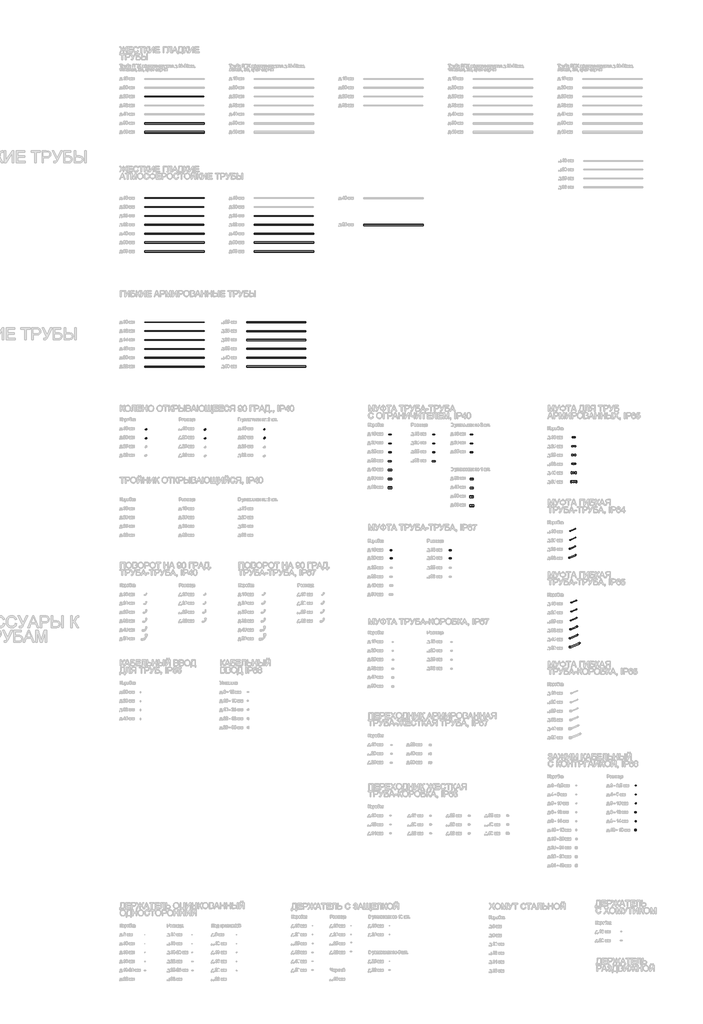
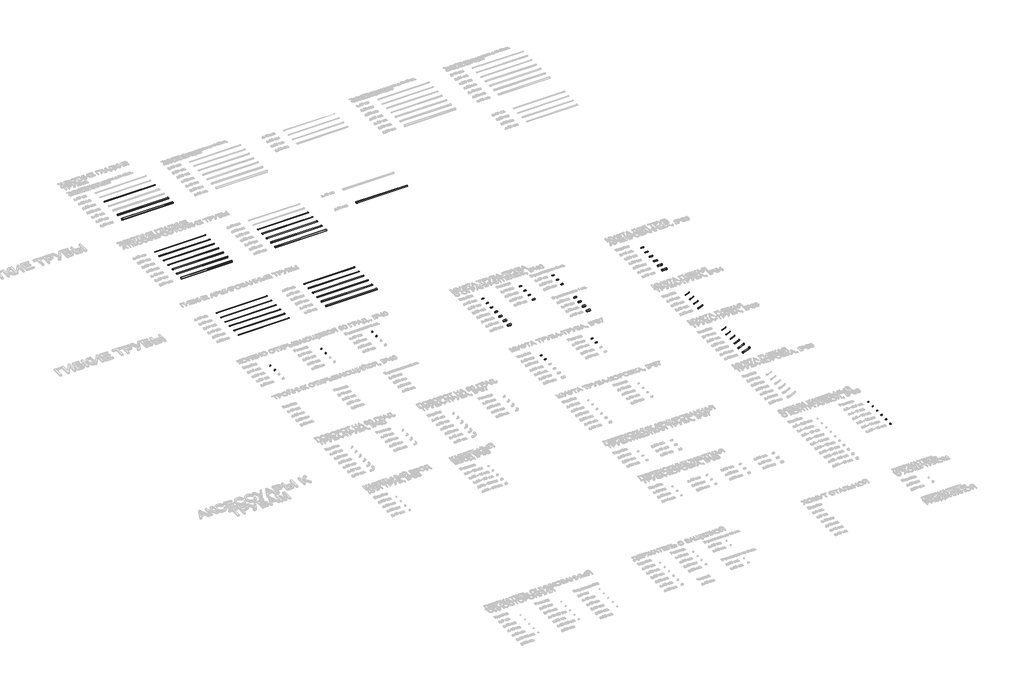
# One storey, part 3 of 98: 50 cable carrier fittings, 28 cable carrier segments.
"""IFC4 building model written with IfcOpenShell, lengths in millimetres."""

from ifc_helpers import new_model, si_unit, point, frame, frame_2d, origin, place, context, project, spatial, circle_curve, trimmed, segment, composite_curve, outline, extrude, transform, mapped, element, save
from components import cable_carrier_fitting_e6c2af0f, cable_carrier_fitting_a0d49712, cable_carrier_fitting_d59ab6b8, cable_carrier_fitting_bf89c065, cable_carrier_fitting_e20c0bde, cable_carrier_fitting_6d4e077f, cable_carrier_fitting_63069963, cable_carrier_fitting_d0d8130a, cable_carrier_fitting_3006681f, cable_carrier_fitting_b1187ae6, cable_carrier_fitting_06bcf47e, cable_carrier_fitting_319fce00, cable_carrier_fitting_6fbfd521, cable_carrier_fitting_863328d7, cable_carrier_fitting_cfdb1fa8, cable_carrier_fitting_4c3340ee, cable_carrier_fitting_b661eac2, cable_carrier_fitting_fd8eeae3, cable_carrier_fitting_d665045f, cable_carrier_fitting_6df9b579, cable_carrier_fitting_d353317e, cable_carrier_fitting_0d2f3ee6, cable_carrier_fitting_17c59ff6, cable_carrier_fitting_585735aa, cable_carrier_fitting_ab0d7205, cable_carrier_fitting_f0e7d8c3, cable_carrier_fitting_927482d8, cable_carrier_fitting_92adc8bc, cable_carrier_fitting_c5d78289, cable_carrier_fitting_eb64f451, cable_carrier_fitting_e854332b, cable_carrier_fitting_78a60928, cable_carrier_fitting_eb13e9ea

model = new_model("IFC4")

# Units and contexts
model_context = context("Model", 3, world=origin())
ifc_project = project(units=[si_unit("LENGTHUNIT", "METRE", prefix="MILLI")], contexts=[model_context])

# Site, building, storey
site = spatial("IfcSite", under=ifc_project)
building = spatial("IfcBuilding", under=site)
storey = spatial("IfcBuildingStorey", under=building, Name="Этаж 01", Elevation=0.0)

# Cable carrier fittings
placement = place(None, origin())
cable_carrier_fitting_shape = cable_carrier_fitting_e6c2af0f(model_context)
element("IfcCableCarrierFitting", 1, ObjectType="КНС_МуфтаДляАрмированныхТруб_IP65_DKC : Коробка", at=placement, inside=storey, context=model_context, shape_type="MappedRepresentation", body=[
    mapped(cable_carrier_fitting_shape, transform((15293.1093796, -16611.2810871, 0.0), x_axis=(1.0, 0.0, 0.0), y_axis=(0.0, 1.0, 0.0), z_axis=(0.0, 0.0, 1.0))),
])
cable_carrier_fitting_2_shape = cable_carrier_fitting_a0d49712(model_context)
element("IfcCableCarrierFitting", 2, ObjectType="КНС_МуфтаТрубаТрубаСОграничителем_IP40_DKC : Коробка", at=placement, inside=storey, context=model_context, shape_type="MappedRepresentation", body=[
    mapped(cable_carrier_fitting_2_shape, transform((9083.4719655, -16521.8105263, 0.0), x_axis=(1.0, 0.0, 0.0), y_axis=(0.0, 1.0, 0.0), z_axis=(0.0, 0.0, 1.0))),
])
element("IfcCableCarrierFitting", 3, ObjectType="КНС_МуфтаТрубаТрубаСОграничителем_IP40_DKC : Розница", at=placement, inside=storey, context=model_context, shape_type="MappedRepresentation", body=[
    mapped(cable_carrier_fitting_2_shape, transform((10563.4719655, -16521.8105263, 0.0), x_axis=(1.0, 0.0, 0.0), y_axis=(0.0, 1.0, 0.0), z_axis=(0.0, 0.0, 1.0))),
])
cable_carrier_fitting_3_shape = cable_carrier_fitting_d59ab6b8(model_context)
element("IfcCableCarrierFitting", 4, ObjectType="КНС_МуфтаТрубаТрубаСОграничителем_IP40_DKC : В упаковках по 1шт.", at=placement, inside=storey, context=model_context, shape_type="MappedRepresentation", body=[
    mapped(cable_carrier_fitting_3_shape, transform((11843.4719655, -17721.8105263, 0.0), x_axis=(1.0, 0.0, 0.0), y_axis=(0.0, 1.0, 0.0), z_axis=(0.0, 0.0, 1.0))),
])
cable_carrier_fitting_4_shape = cable_carrier_fitting_bf89c065(model_context)
element("IfcCableCarrierFitting", 5, ObjectType="КНС_МуфтаТрубаТрубаСОграничителем_IP40_DKC : Коробка", at=placement, inside=storey, context=model_context, shape_type="MappedRepresentation", body=[
    mapped(cable_carrier_fitting_4_shape, transform((9083.4719655, -15621.8105263, 0.0), x_axis=(1.0, 0.0, 0.0), y_axis=(0.0, 1.0, 0.0), z_axis=(0.0, 0.0, 1.0))),
])
cable_carrier_fitting_5_shape = cable_carrier_fitting_e20c0bde(model_context)
element("IfcCableCarrierFitting", 6, ObjectType="КНС_МуфтаТрубаТрубаСОграничителем_IP40_DKC : Коробка", at=placement, inside=storey, context=model_context, shape_type="MappedRepresentation", body=[
    mapped(cable_carrier_fitting_5_shape, transform((9083.4719655, -15921.8105263, 0.0), x_axis=(1.0, 0.0, 0.0), y_axis=(0.0, 1.0, 0.0), z_axis=(0.0, 0.0, 1.0))),
])
cable_carrier_fitting_6_shape = cable_carrier_fitting_6d4e077f(model_context)
element("IfcCableCarrierFitting", 7, ObjectType="КНС_МуфтаТрубаТрубаСОграничителем_IP40_DKC : Коробка", at=placement, inside=storey, context=model_context, shape_type="MappedRepresentation", body=[
    mapped(cable_carrier_fitting_6_shape, transform((9083.4719655, -16221.8105263, 0.0), x_axis=(1.0, 0.0, 0.0), y_axis=(0.0, 1.0, 0.0), z_axis=(0.0, 0.0, 1.0))),
])
cable_carrier_fitting_7_shape = cable_carrier_fitting_63069963(model_context)
element("IfcCableCarrierFitting", 8, ObjectType="КНС_МуфтаТрубаТрубаСОграничителем_IP40_DKC : Коробка", at=placement, inside=storey, context=model_context, shape_type="MappedRepresentation", body=[
    mapped(cable_carrier_fitting_7_shape, transform((9083.4719655, -16821.8105263, 0.0), x_axis=(1.0, 0.0, 0.0), y_axis=(0.0, 1.0, 0.0), z_axis=(0.0, 0.0, 1.0))),
])
element("IfcCableCarrierFitting", 9, ObjectType="КНС_МуфтаТрубаТрубаСОграничителем_IP40_DKC : Коробка", at=placement, inside=storey, context=model_context, shape_type="MappedRepresentation", body=[
    mapped(cable_carrier_fitting_3_shape, transform((9083.4719655, -17121.8105263, 0.0), x_axis=(1.0, 0.0, 0.0), y_axis=(0.0, 1.0, 0.0), z_axis=(0.0, 0.0, 1.0))),
])
cable_carrier_fitting_8_shape = cable_carrier_fitting_d0d8130a(model_context)
element("IfcCableCarrierFitting", 10, ObjectType="КНС_МуфтаТрубаТрубаСОграничителем_IP40_DKC : Коробка", at=placement, inside=storey, context=model_context, shape_type="MappedRepresentation", body=[
    mapped(cable_carrier_fitting_8_shape, transform((9083.4719655, -17421.8105263, 0.0), x_axis=(1.0, 0.0, 0.0), y_axis=(0.0, 1.0, 0.0), z_axis=(0.0, 0.0, 1.0))),
])
element("IfcCableCarrierFitting", 11, ObjectType="КНС_МуфтаТрубаТрубаСОграничителем_IP40_DKC : Розница", at=placement, inside=storey, context=model_context, shape_type="MappedRepresentation", body=[
    mapped(cable_carrier_fitting_4_shape, transform((10563.4719655, -15621.8105263, 0.0), x_axis=(1.0, 0.0, 0.0), y_axis=(0.0, 1.0, 0.0), z_axis=(0.0, 0.0, 1.0))),
])
element("IfcCableCarrierFitting", 12, ObjectType="КНС_МуфтаТрубаТрубаСОграничителем_IP40_DKC : Розница", at=placement, inside=storey, context=model_context, shape_type="MappedRepresentation", body=[
    mapped(cable_carrier_fitting_5_shape, transform((10563.4719655, -15921.8105263, 0.0), x_axis=(1.0, 0.0, 0.0), y_axis=(0.0, 1.0, 0.0), z_axis=(0.0, 0.0, 1.0))),
])
element("IfcCableCarrierFitting", 13, ObjectType="КНС_МуфтаТрубаТрубаСОграничителем_IP40_DKC : Розница", at=placement, inside=storey, context=model_context, shape_type="MappedRepresentation", body=[
    mapped(cable_carrier_fitting_6_shape, transform((10563.4719655, -16221.8105263, 0.0), x_axis=(1.0, 0.0, 0.0), y_axis=(0.0, 1.0, 0.0), z_axis=(0.0, 0.0, 1.0))),
])
element("IfcCableCarrierFitting", 14, ObjectType="КНС_МуфтаТрубаТрубаСОграничителем_IP40_DKC : В упаковках по 2шт.", at=placement, inside=storey, context=model_context, shape_type="MappedRepresentation", body=[
    mapped(cable_carrier_fitting_4_shape, transform((11843.4719655, -15621.8105263, 0.0), x_axis=(1.0, 0.0, 0.0), y_axis=(0.0, 1.0, 0.0), z_axis=(0.0, 0.0, 1.0))),
])
element("IfcCableCarrierFitting", 15, ObjectType="КНС_МуфтаТрубаТрубаСОграничителем_IP40_DKC : В упаковках по 2шт.", at=placement, inside=storey, context=model_context, shape_type="MappedRepresentation", body=[
    mapped(cable_carrier_fitting_5_shape, transform((11843.4719655, -15921.8105263, 0.0), x_axis=(1.0, 0.0, 0.0), y_axis=(0.0, 1.0, 0.0), z_axis=(0.0, 0.0, 1.0))),
])
element("IfcCableCarrierFitting", 16, ObjectType="КНС_МуфтаТрубаТрубаСОграничителем_IP40_DKC : В упаковках по 2шт.", at=placement, inside=storey, context=model_context, shape_type="MappedRepresentation", body=[
    mapped(cable_carrier_fitting_6_shape, transform((11843.4719655, -16221.8105263, 0.0), x_axis=(1.0, 0.0, 0.0), y_axis=(0.0, 1.0, 0.0), z_axis=(0.0, 0.0, 1.0))),
])
element("IfcCableCarrierFitting", 17, ObjectType="КНС_МуфтаТрубаТрубаСОграничителем_IP40_DKC : В упаковках по 1шт.", at=placement, inside=storey, context=model_context, shape_type="MappedRepresentation", body=[
    mapped(cable_carrier_fitting_2_shape, transform((11843.4719655, -17121.8105263, 0.0), x_axis=(1.0, 0.0, 0.0), y_axis=(0.0, 1.0, 0.0), z_axis=(0.0, 0.0, 1.0))),
])
element("IfcCableCarrierFitting", 18, ObjectType="КНС_МуфтаТрубаТрубаСОграничителем_IP40_DKC : В упаковках по 1шт.", at=placement, inside=storey, context=model_context, shape_type="MappedRepresentation", body=[
    mapped(cable_carrier_fitting_7_shape, transform((11843.4719655, -17421.8105263, 0.0), x_axis=(1.0, 0.0, 0.0), y_axis=(0.0, 1.0, 0.0), z_axis=(0.0, 0.0, 1.0))),
])
element("IfcCableCarrierFitting", 19, ObjectType="КНС_МуфтаТрубаТрубаСОграничителем_IP40_DKC : В упаковках по 1шт.", at=placement, inside=storey, context=model_context, shape_type="MappedRepresentation", body=[
    mapped(cable_carrier_fitting_8_shape, transform((11843.4719655, -18021.8105263, 0.0), x_axis=(1.0, 0.0, 0.0), y_axis=(0.0, 1.0, 0.0), z_axis=(0.0, 0.0, 1.0))),
])
cable_carrier_fitting_9_shape = cable_carrier_fitting_3006681f(model_context)
element("IfcCableCarrierFitting", 20, ObjectType="КНС_МуфтаТрубаТруба_IP67_DKC : Коробка", at=placement, inside=storey, context=model_context, shape_type="MappedRepresentation", body=[
    mapped(cable_carrier_fitting_9_shape, transform((9122.0021402, -19526.5458067, 0.0), x_axis=(1.0, 0.0, 0.0), y_axis=(0.0, 1.0, 0.0), z_axis=(0.0, 0.0, 1.0))),
])
cable_carrier_fitting_10_shape = cable_carrier_fitting_b1187ae6(model_context)
element("IfcCableCarrierFitting", 21, ObjectType="КНС_МуфтаТрубаТруба_IP67_DKC : Коробка", at=placement, inside=storey, context=model_context, shape_type="MappedRepresentation", body=[
    mapped(cable_carrier_fitting_10_shape, transform((9122.0021402, -19798.8566484, 0.0), x_axis=(1.0, 0.0, 0.0), y_axis=(0.0, 1.0, 0.0), z_axis=(0.0, 0.0, 1.0))),
])
element("IfcCableCarrierFitting", 22, ObjectType="КНС_МуфтаТрубаТруба_IP67_DKC : Розница", at=placement, inside=storey, context=model_context, shape_type="MappedRepresentation", body=[
    mapped(cable_carrier_fitting_9_shape, transform((11122.0021402, -19526.5458067, 0.0), x_axis=(1.0, 0.0, 0.0), y_axis=(0.0, 1.0, 0.0), z_axis=(0.0, 0.0, 1.0))),
])
element("IfcCableCarrierFitting", 23, ObjectType="КНС_МуфтаТрубаТруба_IP67_DKC : Розница", at=placement, inside=storey, context=model_context, shape_type="MappedRepresentation", body=[
    mapped(cable_carrier_fitting_10_shape, transform((11122.0021402, -19798.8566484, 0.0), x_axis=(1.0, 0.0, 0.0), y_axis=(0.0, 1.0, 0.0), z_axis=(0.0, 0.0, 1.0))),
])
cable_carrier_fitting_11_shape = cable_carrier_fitting_06bcf47e(model_context)
element("IfcCableCarrierFitting", 24, ObjectType="КНС_МуфтаГибкаяТрубаТруба_IP65_DKC : Коробка", at=placement, inside=storey, context=model_context, shape_type="MappedRepresentation", body=[
    mapped(cable_carrier_fitting_11_shape, transform((15308.7251775, -21301.9457062, 0.0), x_axis=(1.0, 0.0, 0.0), y_axis=(0.0, 1.0, 0.0), z_axis=(0.0, 0.0, 1.0))),
])
cable_carrier_fitting_12_shape = cable_carrier_fitting_319fce00(model_context)
element("IfcCableCarrierFitting", 25, ObjectType="КНС_МуфтаГибкаяТрубаТруба_IP65_DKC : Коробка", at=placement, inside=storey, context=model_context, shape_type="MappedRepresentation", body=[
    mapped(cable_carrier_fitting_12_shape, transform((15308.7251775, -21601.9457062, 0.0), x_axis=(1.0, 0.0, 0.0), y_axis=(0.0, 1.0, 0.0), z_axis=(0.0, 0.0, 1.0))),
])
cable_carrier_fitting_13_shape = cable_carrier_fitting_6fbfd521(model_context)
element("IfcCableCarrierFitting", 26, ObjectType="КНС_МуфтаГибкаяТрубаТруба_IP65_DKC : Коробка", at=placement, inside=storey, context=model_context, shape_type="MappedRepresentation", body=[
    mapped(cable_carrier_fitting_13_shape, transform((15308.7251775, -21901.9457062, 0.0), x_axis=(1.0, 0.0, 0.0), y_axis=(0.0, 1.0, 0.0), z_axis=(0.0, 0.0, 1.0))),
])
cable_carrier_fitting_14_shape = cable_carrier_fitting_863328d7(model_context)
element("IfcCableCarrierFitting", 27, ObjectType="КНС_МуфтаГибкаяТрубаТруба_IP65_DKC : Коробка", at=placement, inside=storey, context=model_context, shape_type="MappedRepresentation", body=[
    mapped(cable_carrier_fitting_14_shape, transform((15308.7251775, -22201.9457062, 0.0), x_axis=(1.0, 0.0, 0.0), y_axis=(0.0, 1.0, 0.0), z_axis=(0.0, 0.0, 1.0))),
])
cable_carrier_fitting_15_shape = cable_carrier_fitting_cfdb1fa8(model_context)
element("IfcCableCarrierFitting", 28, ObjectType="КНС_МуфтаГибкаяТрубаТруба_IP65_DKC : Коробка", at=placement, inside=storey, context=model_context, shape_type="MappedRepresentation", body=[
    mapped(cable_carrier_fitting_15_shape, transform((15308.7251775, -22501.9457062, 0.0), x_axis=(1.0, 0.0, 0.0), y_axis=(0.0, 1.0, 0.0), z_axis=(0.0, 0.0, 1.0))),
])
cable_carrier_fitting_16_shape = cable_carrier_fitting_4c3340ee(model_context)
element("IfcCableCarrierFitting", 29, ObjectType="КНС_МуфтаГибкаяТрубаТруба_IP65_DKC : Коробка", at=placement, inside=storey, context=model_context, shape_type="MappedRepresentation", body=[
    mapped(cable_carrier_fitting_16_shape, transform((15348.7251775, -22801.9457062, 0.0), x_axis=(1.0, 0.0, 0.0), y_axis=(0.0, 1.0, 0.0), z_axis=(0.0, 0.0, 1.0))),
])
cable_carrier_fitting_17_shape = cable_carrier_fitting_b661eac2(model_context)
element("IfcCableCarrierFitting", 30, ObjectType="КНС_МуфтаГибкаяТрубаТруба_IP64_DKC : Коробка", at=placement, inside=storey, context=model_context, shape_type="MappedRepresentation", body=[
    mapped(cable_carrier_fitting_17_shape, transform((15270.5607558, -18877.3169892, 0.0), x_axis=(1.0, 0.0, 0.0), y_axis=(0.0, 1.0, 0.0), z_axis=(0.0, 0.0, 1.0))),
])
cable_carrier_fitting_18_shape = cable_carrier_fitting_fd8eeae3(model_context)
element("IfcCableCarrierFitting", 31, ObjectType="КНС_МуфтаГибкаяТрубаТруба_IP64_DKC : Коробка", at=placement, inside=storey, context=model_context, shape_type="MappedRepresentation", body=[
    mapped(cable_carrier_fitting_18_shape, transform((15270.5607558, -19177.3169892, 0.0), x_axis=(1.0, 0.0, 0.0), y_axis=(0.0, 1.0, 0.0), z_axis=(0.0, 0.0, 1.0))),
])
cable_carrier_fitting_19_shape = cable_carrier_fitting_d665045f(model_context)
element("IfcCableCarrierFitting", 32, ObjectType="КНС_МуфтаГибкаяТрубаТруба_IP64_DKC : Коробка", at=placement, inside=storey, context=model_context, shape_type="MappedRepresentation", body=[
    mapped(cable_carrier_fitting_19_shape, transform((15270.5607558, -19477.3169892, 0.0), x_axis=(1.0, 0.0, 0.0), y_axis=(0.0, 1.0, 0.0), z_axis=(0.0, 0.0, 1.0))),
])
cable_carrier_fitting_20_shape = cable_carrier_fitting_6df9b579(model_context)
element("IfcCableCarrierFitting", 33, ObjectType="КНС_МуфтаГибкаяТрубаТруба_IP64_DKC : Коробка", at=placement, inside=storey, context=model_context, shape_type="MappedRepresentation", body=[
    mapped(cable_carrier_fitting_20_shape, transform((15270.5607558, -19777.3169892, 0.0), x_axis=(1.0, 0.0, 0.0), y_axis=(0.0, 1.0, 0.0), z_axis=(0.0, 0.0, 1.0))),
])
cable_carrier_fitting_21_shape = cable_carrier_fitting_d353317e(model_context)
element("IfcCableCarrierFitting", 34, ObjectType="КНС_КоленоОткрывающееся90Градусов_IP40_DKC : Коробка", at=placement, inside=storey, context=model_context, shape_type="MappedRepresentation", body=[
    mapped(cable_carrier_fitting_21_shape, transform((850.9715545, -15451.5121665, 0.0), x_axis=(1.0, 0.0, 0.0), y_axis=(0.0, 1.0, 0.0), z_axis=(0.0, 0.0, 1.0))),
])
cable_carrier_fitting_22_shape = cable_carrier_fitting_0d2f3ee6(model_context)
element("IfcCableCarrierFitting", 35, ObjectType="КНС_КоленоОткрывающееся90Градусов_IP40_DKC : Коробка", at=placement, inside=storey, context=model_context, shape_type="MappedRepresentation", body=[
    mapped(cable_carrier_fitting_22_shape, transform((850.9715545, -15759.5121665, 0.0), x_axis=(1.0, 0.0, 0.0), y_axis=(0.0, 1.0, 0.0), z_axis=(0.0, 0.0, 1.0))),
])
element("IfcCableCarrierFitting", 36, ObjectType="КНС_КоленоОткрывающееся90Градусов_IP40_DKC : Розница", at=placement, inside=storey, context=model_context, shape_type="MappedRepresentation", body=[
    mapped(cable_carrier_fitting_21_shape, transform((2850.9715545, -15459.5121665, 0.0), x_axis=(1.0, 0.0, 0.0), y_axis=(0.0, 1.0, 0.0), z_axis=(0.0, 0.0, 1.0))),
])
element("IfcCableCarrierFitting", 37, ObjectType="КНС_КоленоОткрывающееся90Градусов_IP40_DKC : Розница", at=placement, inside=storey, context=model_context, shape_type="MappedRepresentation", body=[
    mapped(cable_carrier_fitting_22_shape, transform((2850.9715545, -15759.5121665, 0.0), x_axis=(1.0, 0.0, 0.0), y_axis=(0.0, 1.0, 0.0), z_axis=(0.0, 0.0, 1.0))),
])
element("IfcCableCarrierFitting", 38, ObjectType="КНС_КоленоОткрывающееся90Градусов_IP40_DKC : В упаковках по 2шт.", at=placement, inside=storey, context=model_context, shape_type="MappedRepresentation", body=[
    mapped(cable_carrier_fitting_21_shape, transform((4850.9715545, -15451.5121665, 0.0), x_axis=(1.0, 0.0, 0.0), y_axis=(0.0, 1.0, 0.0), z_axis=(0.0, 0.0, 1.0))),
])
element("IfcCableCarrierFitting", 39, ObjectType="КНС_КоленоОткрывающееся90Градусов_IP40_DKC : В упаковках по 2шт.", at=placement, inside=storey, context=model_context, shape_type="MappedRepresentation", body=[
    mapped(cable_carrier_fitting_22_shape, transform((4850.9715545, -15749.5121665, 0.0), x_axis=(1.0, 0.0, 0.0), y_axis=(0.0, 1.0, 0.0), z_axis=(0.0, 0.0, 1.0))),
])
cable_carrier_fitting_23_shape = cable_carrier_fitting_17c59ff6(model_context)
element("IfcCableCarrierFitting", 40, ObjectType="КНС_МуфтаДляАрмированныхТруб_IP65_DKC : Коробка", at=placement, inside=storey, context=model_context, shape_type="MappedRepresentation", body=[
    mapped(cable_carrier_fitting_23_shape, transform((15293.1093796, -15711.2810871, 0.0), x_axis=(1.0, 0.0, 0.0), y_axis=(0.0, 1.0, 0.0), z_axis=(0.0, 0.0, 1.0))),
])
cable_carrier_fitting_24_shape = cable_carrier_fitting_585735aa(model_context)
element("IfcCableCarrierFitting", 41, ObjectType="КНС_МуфтаДляАрмированныхТруб_IP65_DKC : Коробка", at=placement, inside=storey, context=model_context, shape_type="MappedRepresentation", body=[
    mapped(cable_carrier_fitting_24_shape, transform((15293.1093796, -16011.2810871, 0.0), x_axis=(1.0, 0.0, 0.0), y_axis=(0.0, 1.0, 0.0), z_axis=(0.0, 0.0, 1.0))),
])
cable_carrier_fitting_25_shape = cable_carrier_fitting_ab0d7205(model_context)
element("IfcCableCarrierFitting", 42, ObjectType="КНС_МуфтаДляАрмированныхТруб_IP65_DKC : Коробка", at=placement, inside=storey, context=model_context, shape_type="MappedRepresentation", body=[
    mapped(cable_carrier_fitting_25_shape, transform((15293.1093796, -16311.2810871, 0.0), x_axis=(1.0, 0.0, 0.0), y_axis=(0.0, 1.0, 0.0), z_axis=(0.0, 0.0, 1.0))),
])
cable_carrier_fitting_26_shape = cable_carrier_fitting_f0e7d8c3(model_context)
element("IfcCableCarrierFitting", 43, ObjectType="КНС_МуфтаДляАрмированныхТруб_IP65_DKC : Коробка", at=placement, inside=storey, context=model_context, shape_type="MappedRepresentation", body=[
    mapped(cable_carrier_fitting_26_shape, transform((15293.1093796, -16911.2810871, 0.0), x_axis=(1.0, 0.0, 0.0), y_axis=(0.0, 1.0, 0.0), z_axis=(0.0, 0.0, 1.0))),
])
cable_carrier_fitting_27_shape = cable_carrier_fitting_927482d8(model_context)
element("IfcCableCarrierFitting", 44, ObjectType="КНС_МуфтаДляАрмированныхТруб_IP65_DKC : Коробка", at=placement, inside=storey, context=model_context, shape_type="MappedRepresentation", body=[
    mapped(cable_carrier_fitting_27_shape, transform((15293.1093796, -17211.2810871, 0.0), x_axis=(1.0, 0.0, 0.0), y_axis=(0.0, 1.0, 0.0), z_axis=(0.0, 0.0, 1.0))),
])
cable_carrier_fitting_28_shape = cable_carrier_fitting_92adc8bc(model_context)
element("IfcCableCarrierFitting", 45, ObjectType="КНС_КабельныйЗажимСКонтрагайкой_IP68_DKC : д.3 - 6,5мм (розница)", at=placement, inside=storey, context=model_context, shape_type="MappedRepresentation", body=[
    mapped(cable_carrier_fitting_28_shape, transform((17380.5265443, -27482.25689, 0.0), x_axis=(1.0, 0.0, 0.0), y_axis=(0.0, 1.0, 0.0), z_axis=(0.0, 0.0, 1.0))),
])
cable_carrier_fitting_29_shape = cable_carrier_fitting_c5d78289(model_context)
element("IfcCableCarrierFitting", 46, ObjectType="КНС_КабельныйЗажимСКонтрагайкой_IP68_DKC : д.4 - 8мм (розница)", at=placement, inside=storey, context=model_context, shape_type="MappedRepresentation", body=[
    mapped(cable_carrier_fitting_29_shape, transform((17380.5265443, -27782.25689, 0.0), x_axis=(1.0, 0.0, 0.0), y_axis=(0.0, 1.0, 0.0), z_axis=(0.0, 0.0, 1.0))),
])
cable_carrier_fitting_30_shape = cable_carrier_fitting_eb64f451(model_context)
element("IfcCableCarrierFitting", 47, ObjectType="КНС_КабельныйЗажимСКонтрагайкой_IP68_DKC : д.5 - 10мм (розница)", at=placement, inside=storey, context=model_context, shape_type="MappedRepresentation", body=[
    mapped(cable_carrier_fitting_30_shape, transform((17380.5265443, -28082.25689, 0.0), x_axis=(1.0, 0.0, 0.0), y_axis=(0.0, 1.0, 0.0), z_axis=(0.0, 0.0, 1.0))),
])
cable_carrier_fitting_31_shape = cable_carrier_fitting_e854332b(model_context)
element("IfcCableCarrierFitting", 48, ObjectType="КНС_КабельныйЗажимСКонтрагайкой_IP68_DKC : д.6 - 12мм (розница)", at=placement, inside=storey, context=model_context, shape_type="MappedRepresentation", body=[
    mapped(cable_carrier_fitting_31_shape, transform((17380.5265443, -28382.25689, 0.0), x_axis=(1.0, 0.0, 0.0), y_axis=(0.0, 1.0, 0.0), z_axis=(0.0, 0.0, 1.0))),
])
cable_carrier_fitting_32_shape = cable_carrier_fitting_78a60928(model_context)
element("IfcCableCarrierFitting", 49, ObjectType="КНС_КабельныйЗажимСКонтрагайкой_IP68_DKC : д.9 - 14мм (розница)", at=placement, inside=storey, context=model_context, shape_type="MappedRepresentation", body=[
    mapped(cable_carrier_fitting_32_shape, transform((17380.5265443, -28682.25689, 0.0), x_axis=(1.0, 0.0, 0.0), y_axis=(0.0, 1.0, 0.0), z_axis=(0.0, 0.0, 1.0))),
])
cable_carrier_fitting_33_shape = cable_carrier_fitting_eb13e9ea(model_context)
element("IfcCableCarrierFitting", 50, ObjectType="КНС_КабельныйЗажимСКонтрагайкой_IP68_DKC : д.13 - 18мм (розница)", at=placement, inside=storey, context=model_context, shape_type="MappedRepresentation", body=[
    mapped(cable_carrier_fitting_33_shape, transform((17380.5265443, -28982.25689, 0.0), x_axis=(1.0, 0.0, 0.0), y_axis=(0.0, 1.0, 0.0), z_axis=(0.0, 0.0, 1.0))),
])

# Cable carrier segments
element("IfcCableCarrierSegment", 51, ObjectType="КНС_Труба ПВХ жёсткая гладкая_DKC_д.16-63мм тяжёлая 3м цвет серый", at=placement, inside=storey, context=model_context, shape_type="SweptSolid", body=[
    extrude(outline(composite_curve([segment(trimmed(circle_curve(frame_2d((-4203.5230932, 0.0)), 12.5), [point((-4216.0230932, 0.0))], [point((-4203.5230932, 12.5))], False, "CARTESIAN"), True, "CONTINUOUS"), segment(trimmed(circle_curve(frame_2d((-4203.5230932, 0.0)), 12.5), [point((-4203.5230932, 12.5))], [point((-4191.0230932, 0.0))], False, "CARTESIAN"), True, "CONTINUOUS"), segment(trimmed(circle_curve(frame_2d((-4203.5230932, 0.0)), 12.5), [point((-4191.0230932, 0.0))], [point((-4203.5230932, -12.5))], False, "CARTESIAN"), True, "CONTINUOUS"), segment(trimmed(circle_curve(frame_2d((-4203.5230932, 0.0)), 12.5), [point((-4203.5230932, -12.5))], [point((-4216.0230932, 0.0))], False, "CARTESIAN"), True, "CONTINUOUS")], self_intersect=False)), frame((803.8155149, 0.0, 0.0), z_axis=(1.0, 0.0, 0.0), x_axis=(0.0, 1.0, 0.0)), (0.0, 0.0, 1.0), 1995.0),
])
element("IfcCableCarrierSegment", 52, ObjectType="КНС_Труба ПВХ жёсткая гладкая_DKC_д.16-63мм тяжёлая 3м цвет серый", at=placement, inside=storey, context=model_context, shape_type="SweptSolid", body=[
    extrude(outline(composite_curve([segment(trimmed(circle_curve(frame_2d((-5103.5230932, 0.0)), 25.0), [point((-5128.5230932, 0.0))], [point((-5103.5230932, 25.0))], False, "CARTESIAN"), True, "CONTINUOUS"), segment(trimmed(circle_curve(frame_2d((-5103.5230932, 0.0)), 25.0), [point((-5103.5230932, 25.0))], [point((-5078.5230932, 0.0))], False, "CARTESIAN"), True, "CONTINUOUS"), segment(trimmed(circle_curve(frame_2d((-5103.5230932, 0.0)), 25.0), [point((-5078.5230932, 0.0))], [point((-5103.5230932, -25.0))], False, "CARTESIAN"), True, "CONTINUOUS"), segment(trimmed(circle_curve(frame_2d((-5103.5230932, 0.0)), 25.0), [point((-5103.5230932, -25.0))], [point((-5128.5230932, 0.0))], False, "CARTESIAN"), True, "CONTINUOUS")], self_intersect=False)), frame((803.8155149, 0.0, 0.0), z_axis=(1.0, 0.0, 0.0), x_axis=(0.0, 1.0, 0.0)), (0.0, 0.0, 1.0), 2000.0),
])
element("IfcCableCarrierSegment", 53, ObjectType="КНС_Труба ПВХ жёсткая гладкая_DKC_д.16-63мм тяжёлая 3м цвет серый", at=placement, inside=storey, context=model_context, shape_type="SweptSolid", body=[
    extrude(outline(composite_curve([segment(trimmed(circle_curve(frame_2d((-5403.5230932, 0.0)), 31.5), [point((-5435.0230932, 0.0))], [point((-5403.5230932, 31.5))], False, "CARTESIAN"), True, "CONTINUOUS"), segment(trimmed(circle_curve(frame_2d((-5403.5230932, 0.0)), 31.5), [point((-5403.5230932, 31.5))], [point((-5372.0230932, 0.0))], False, "CARTESIAN"), True, "CONTINUOUS"), segment(trimmed(circle_curve(frame_2d((-5403.5230932, 0.0)), 31.5), [point((-5372.0230932, 0.0))], [point((-5403.5230932, -31.5))], False, "CARTESIAN"), True, "CONTINUOUS"), segment(trimmed(circle_curve(frame_2d((-5403.5230932, 0.0)), 31.5), [point((-5403.5230932, -31.5))], [point((-5435.0230932, 0.0))], False, "CARTESIAN"), True, "CONTINUOUS")], self_intersect=False)), frame((803.8155149, 0.0, 0.0), z_axis=(1.0, 0.0, 0.0), x_axis=(0.0, 1.0, 0.0)), (0.0, 0.0, 1.0), 2000.0),
])
element("IfcCableCarrierSegment", 54, ObjectType="КНС_Труба ПВХ жёсткая атмосферостойкая_DKC_д.16-63мм тяжёлая 3м цвет серый", at=placement, inside=storey, context=model_context, shape_type="SweptSolid", body=[
    extrude(outline(composite_curve([segment(trimmed(circle_curve(frame_2d((-7636.48532, 0.0)), 8.0), [point((-7644.48532, 0.0))], [point((-7636.48532, 8.0))], False, "CARTESIAN"), True, "CONTINUOUS"), segment(trimmed(circle_curve(frame_2d((-7636.48532, 0.0)), 8.0), [point((-7636.48532, 8.0))], [point((-7628.48532, 0.0))], False, "CARTESIAN"), True, "CONTINUOUS"), segment(trimmed(circle_curve(frame_2d((-7636.48532, 0.0)), 8.0), [point((-7628.48532, 0.0))], [point((-7636.48532, -8.0))], False, "CARTESIAN"), True, "CONTINUOUS"), segment(trimmed(circle_curve(frame_2d((-7636.48532, 0.0)), 8.0), [point((-7636.48532, -8.0))], [point((-7644.48532, 0.0))], False, "CARTESIAN"), True, "CONTINUOUS")], self_intersect=False)), frame((800.9869368, 0.0, 0.0), z_axis=(1.0, 0.0, 0.0), x_axis=(0.0, 1.0, 0.0)), (0.0, 0.0, 1.0), 2000.0),
])
element("IfcCableCarrierSegment", 55, ObjectType="КНС_Труба ПВХ жёсткая атмосферостойкая_DKC_д.16-63мм тяжёлая 3м цвет серый", at=placement, inside=storey, context=model_context, shape_type="SweptSolid", body=[
    extrude(outline(composite_curve([segment(trimmed(circle_curve(frame_2d((-7936.48532, 0.0)), 10.0), [point((-7946.48532, 0.0))], [point((-7936.48532, 10.0))], False, "CARTESIAN"), True, "CONTINUOUS"), segment(trimmed(circle_curve(frame_2d((-7936.48532, 0.0)), 10.0), [point((-7936.48532, 10.0))], [point((-7926.48532, 0.0))], False, "CARTESIAN"), True, "CONTINUOUS"), segment(trimmed(circle_curve(frame_2d((-7936.48532, 0.0)), 10.0), [point((-7926.48532, 0.0))], [point((-7936.48532, -10.0))], False, "CARTESIAN"), True, "CONTINUOUS"), segment(trimmed(circle_curve(frame_2d((-7936.48532, 0.0)), 10.0), [point((-7936.48532, -10.0))], [point((-7946.48532, 0.0))], False, "CARTESIAN"), True, "CONTINUOUS")], self_intersect=False)), frame((800.9869368, 0.0, 0.0), z_axis=(1.0, 0.0, 0.0), x_axis=(0.0, 1.0, 0.0)), (0.0, 0.0, 1.0), 1998.0),
])
element("IfcCableCarrierSegment", 56, ObjectType="КНС_Труба ПВХ жёсткая атмосферостойкая_DKC_д.16-63мм тяжёлая 3м цвет серый", at=placement, inside=storey, context=model_context, shape_type="SweptSolid", body=[
    extrude(outline(composite_curve([segment(trimmed(circle_curve(frame_2d((-8236.48532, 0.0)), 12.5), [point((-8248.98532, 0.0))], [point((-8236.48532, 12.5))], False, "CARTESIAN"), True, "CONTINUOUS"), segment(trimmed(circle_curve(frame_2d((-8236.48532, 0.0)), 12.5), [point((-8236.48532, 12.5))], [point((-8223.98532, 0.0))], False, "CARTESIAN"), True, "CONTINUOUS"), segment(trimmed(circle_curve(frame_2d((-8236.48532, 0.0)), 12.5), [point((-8223.98532, 0.0))], [point((-8236.48532, -12.5))], False, "CARTESIAN"), True, "CONTINUOUS"), segment(trimmed(circle_curve(frame_2d((-8236.48532, 0.0)), 12.5), [point((-8236.48532, -12.5))], [point((-8248.98532, 0.0))], False, "CARTESIAN"), True, "CONTINUOUS")], self_intersect=False)), frame((800.9869368, 0.0, 0.0), z_axis=(1.0, 0.0, 0.0), x_axis=(0.0, 1.0, 0.0)), (0.0, 0.0, 1.0), 1995.0),
])
element("IfcCableCarrierSegment", 57, ObjectType="КНС_Труба ПВХ жёсткая атмосферостойкая_DKC_д.16-63мм тяжёлая 3м цвет серый", at=placement, inside=storey, context=model_context, shape_type="SweptSolid", body=[
    extrude(outline(composite_curve([segment(trimmed(circle_curve(frame_2d((-8536.48532, 0.0)), 16.0), [point((-8552.48532, 0.0))], [point((-8536.48532, 16.0))], False, "CARTESIAN"), True, "CONTINUOUS"), segment(trimmed(circle_curve(frame_2d((-8536.48532, 0.0)), 16.0), [point((-8536.48532, 16.0))], [point((-8520.48532, 0.0))], False, "CARTESIAN"), True, "CONTINUOUS"), segment(trimmed(circle_curve(frame_2d((-8536.48532, 0.0)), 16.0), [point((-8520.48532, 0.0))], [point((-8536.48532, -16.0))], False, "CARTESIAN"), True, "CONTINUOUS"), segment(trimmed(circle_curve(frame_2d((-8536.48532, 0.0)), 16.0), [point((-8536.48532, -16.0))], [point((-8552.48532, 0.0))], False, "CARTESIAN"), True, "CONTINUOUS")], self_intersect=False)), frame((800.9869368, 0.0, 0.0), z_axis=(1.0, 0.0, 0.0), x_axis=(0.0, 1.0, 0.0)), (0.0, 0.0, 1.0), 1991.0),
])
element("IfcCableCarrierSegment", 58, ObjectType="КНС_Труба ПВХ жёсткая атмосферостойкая_DKC_д.16-63мм тяжёлая 3м цвет серый", at=placement, inside=storey, context=model_context, shape_type="SweptSolid", body=[
    extrude(outline(composite_curve([segment(trimmed(circle_curve(frame_2d((-8836.48532, 0.0)), 20.0), [point((-8856.48532, 0.0))], [point((-8836.48532, 20.0))], False, "CARTESIAN"), True, "CONTINUOUS"), segment(trimmed(circle_curve(frame_2d((-8836.48532, 0.0)), 20.0), [point((-8836.48532, 20.0))], [point((-8816.48532, 0.0))], False, "CARTESIAN"), True, "CONTINUOUS"), segment(trimmed(circle_curve(frame_2d((-8836.48532, 0.0)), 20.0), [point((-8816.48532, 0.0))], [point((-8836.48532, -20.0))], False, "CARTESIAN"), True, "CONTINUOUS"), segment(trimmed(circle_curve(frame_2d((-8836.48532, 0.0)), 20.0), [point((-8836.48532, -20.0))], [point((-8856.48532, 0.0))], False, "CARTESIAN"), True, "CONTINUOUS")], self_intersect=False)), frame((800.9869368, 0.0, 0.0), z_axis=(1.0, 0.0, 0.0), x_axis=(0.0, 1.0, 0.0)), (0.0, 0.0, 1.0), 2000.0),
])
element("IfcCableCarrierSegment", 59, ObjectType="КНС_Труба ПВХ жёсткая атмосферостойкая_DKC_д.16-63мм тяжёлая 3м цвет серый", at=placement, inside=storey, context=model_context, shape_type="SweptSolid", body=[
    extrude(outline(composite_curve([segment(trimmed(circle_curve(frame_2d((-9136.48532, 0.0)), 25.0), [point((-9161.48532, 0.0))], [point((-9136.48532, 25.0))], False, "CARTESIAN"), True, "CONTINUOUS"), segment(trimmed(circle_curve(frame_2d((-9136.48532, 0.0)), 25.0), [point((-9136.48532, 25.0))], [point((-9111.48532, 0.0))], False, "CARTESIAN"), True, "CONTINUOUS"), segment(trimmed(circle_curve(frame_2d((-9136.48532, 0.0)), 25.0), [point((-9111.48532, 0.0))], [point((-9136.48532, -25.0))], False, "CARTESIAN"), True, "CONTINUOUS"), segment(trimmed(circle_curve(frame_2d((-9136.48532, 0.0)), 25.0), [point((-9136.48532, -25.0))], [point((-9161.48532, 0.0))], False, "CARTESIAN"), True, "CONTINUOUS")], self_intersect=False)), frame((800.9869368, 0.0, 0.0), z_axis=(1.0, 0.0, 0.0), x_axis=(0.0, 1.0, 0.0)), (0.0, 0.0, 1.0), 2000.0),
])
element("IfcCableCarrierSegment", 60, ObjectType="КНС_Труба ПВХ жёсткая атмосферостойкая_DKC_д.16-63мм тяжёлая 3м цвет серый", at=placement, inside=storey, context=model_context, shape_type="SweptSolid", body=[
    extrude(outline(composite_curve([segment(trimmed(circle_curve(frame_2d((-9436.48532, 0.0)), 31.5), [point((-9467.98532, 0.0))], [point((-9436.48532, 31.5))], False, "CARTESIAN"), True, "CONTINUOUS"), segment(trimmed(circle_curve(frame_2d((-9436.48532, 0.0)), 31.5), [point((-9436.48532, 31.5))], [point((-9404.98532, 0.0))], False, "CARTESIAN"), True, "CONTINUOUS"), segment(trimmed(circle_curve(frame_2d((-9436.48532, 0.0)), 31.5), [point((-9404.98532, 0.0))], [point((-9436.48532, -31.5))], False, "CARTESIAN"), True, "CONTINUOUS"), segment(trimmed(circle_curve(frame_2d((-9436.48532, 0.0)), 31.5), [point((-9436.48532, -31.5))], [point((-9467.98532, 0.0))], False, "CARTESIAN"), True, "CONTINUOUS")], self_intersect=False)), frame((800.9869368, 0.0, 0.0), z_axis=(1.0, 0.0, 0.0), x_axis=(0.0, 1.0, 0.0)), (0.0, 0.0, 1.0), 2000.0),
])
element("IfcCableCarrierSegment", 61, ObjectType="КНС_Труба ПВХ жёсткая атмосферостойкая_DKC_д.16-63мм лёгкая 3м цвет серый", at=placement, inside=storey, context=model_context, shape_type="SweptSolid", body=[
    extrude(outline(composite_curve([segment(trimmed(circle_curve(frame_2d((-8236.48532, 0.0)), 12.5), [point((-8248.98532, 0.0))], [point((-8236.48532, 12.5))], False, "CARTESIAN"), True, "CONTINUOUS"), segment(trimmed(circle_curve(frame_2d((-8236.48532, 0.0)), 12.5), [point((-8236.48532, 12.5))], [point((-8223.98532, 0.0))], False, "CARTESIAN"), True, "CONTINUOUS"), segment(trimmed(circle_curve(frame_2d((-8236.48532, 0.0)), 12.5), [point((-8223.98532, 0.0))], [point((-8236.48532, -12.5))], False, "CARTESIAN"), True, "CONTINUOUS"), segment(trimmed(circle_curve(frame_2d((-8236.48532, 0.0)), 12.5), [point((-8236.48532, -12.5))], [point((-8248.98532, 0.0))], False, "CARTESIAN"), True, "CONTINUOUS")], self_intersect=False)), frame((4500.9869368, 0.0, 0.0), z_axis=(1.0, 0.0, 0.0), x_axis=(0.0, 1.0, 0.0)), (0.0, 0.0, 1.0), 1995.0),
])
element("IfcCableCarrierSegment", 62, ObjectType="КНС_Труба ПВХ жёсткая атмосферостойкая_DKC_д.16-63мм лёгкая 3м цвет серый", at=placement, inside=storey, context=model_context, shape_type="SweptSolid", body=[
    extrude(outline(composite_curve([segment(trimmed(circle_curve(frame_2d((-8536.48532, 0.0)), 16.0), [point((-8552.48532, 0.0))], [point((-8536.48532, 16.0))], False, "CARTESIAN"), True, "CONTINUOUS"), segment(trimmed(circle_curve(frame_2d((-8536.48532, 0.0)), 16.0), [point((-8536.48532, 16.0))], [point((-8520.48532, 0.0))], False, "CARTESIAN"), True, "CONTINUOUS"), segment(trimmed(circle_curve(frame_2d((-8536.48532, 0.0)), 16.0), [point((-8520.48532, 0.0))], [point((-8536.48532, -16.0))], False, "CARTESIAN"), True, "CONTINUOUS"), segment(trimmed(circle_curve(frame_2d((-8536.48532, 0.0)), 16.0), [point((-8536.48532, -16.0))], [point((-8552.48532, 0.0))], False, "CARTESIAN"), True, "CONTINUOUS")], self_intersect=False)), frame((4500.9869368, 0.0, 0.0), z_axis=(1.0, 0.0, 0.0), x_axis=(0.0, 1.0, 0.0)), (0.0, 0.0, 1.0), 1991.0),
])
element("IfcCableCarrierSegment", 63, ObjectType="КНС_Труба ПВХ жёсткая атмосферостойкая_DKC_д.16-63мм лёгкая 3м цвет серый", at=placement, inside=storey, context=model_context, shape_type="SweptSolid", body=[
    extrude(outline(composite_curve([segment(trimmed(circle_curve(frame_2d((-8836.48532, 0.0)), 20.0), [point((-8856.48532, 0.0))], [point((-8836.48532, 20.0))], False, "CARTESIAN"), True, "CONTINUOUS"), segment(trimmed(circle_curve(frame_2d((-8836.48532, 0.0)), 20.0), [point((-8836.48532, 20.0))], [point((-8816.48532, 0.0))], False, "CARTESIAN"), True, "CONTINUOUS"), segment(trimmed(circle_curve(frame_2d((-8836.48532, 0.0)), 20.0), [point((-8816.48532, 0.0))], [point((-8836.48532, -20.0))], False, "CARTESIAN"), True, "CONTINUOUS"), segment(trimmed(circle_curve(frame_2d((-8836.48532, 0.0)), 20.0), [point((-8836.48532, -20.0))], [point((-8856.48532, 0.0))], False, "CARTESIAN"), True, "CONTINUOUS")], self_intersect=False)), frame((4500.9869368, 0.0, 0.0), z_axis=(1.0, 0.0, 0.0), x_axis=(0.0, 1.0, 0.0)), (0.0, 0.0, 1.0), 2000.0),
])
element("IfcCableCarrierSegment", 64, ObjectType="КНС_Труба ПВХ жёсткая атмосферостойкая_DKC_д.16-63мм лёгкая 3м цвет серый", at=placement, inside=storey, context=model_context, shape_type="SweptSolid", body=[
    extrude(outline(composite_curve([segment(trimmed(circle_curve(frame_2d((-9136.48532, 0.0)), 25.0), [point((-9161.48532, 0.0))], [point((-9136.48532, 25.0))], False, "CARTESIAN"), True, "CONTINUOUS"), segment(trimmed(circle_curve(frame_2d((-9136.48532, 0.0)), 25.0), [point((-9136.48532, 25.0))], [point((-9111.48532, 0.0))], False, "CARTESIAN"), True, "CONTINUOUS"), segment(trimmed(circle_curve(frame_2d((-9136.48532, 0.0)), 25.0), [point((-9111.48532, 0.0))], [point((-9136.48532, -25.0))], False, "CARTESIAN"), True, "CONTINUOUS"), segment(trimmed(circle_curve(frame_2d((-9136.48532, 0.0)), 25.0), [point((-9136.48532, -25.0))], [point((-9161.48532, 0.0))], False, "CARTESIAN"), True, "CONTINUOUS")], self_intersect=False)), frame((4500.9869368, 0.0, 0.0), z_axis=(1.0, 0.0, 0.0), x_axis=(0.0, 1.0, 0.0)), (0.0, 0.0, 1.0), 2000.0),
])
element("IfcCableCarrierSegment", 65, ObjectType="КНС_Труба ПВХ жёсткая атмосферостойкая_DKC_д.16-63мм лёгкая 3м цвет серый", at=placement, inside=storey, context=model_context, shape_type="SweptSolid", body=[
    extrude(outline(composite_curve([segment(trimmed(circle_curve(frame_2d((-9436.48532, 0.0)), 31.5), [point((-9467.98532, 0.0))], [point((-9436.48532, 31.5))], False, "CARTESIAN"), True, "CONTINUOUS"), segment(trimmed(circle_curve(frame_2d((-9436.48532, 0.0)), 31.5), [point((-9436.48532, 31.5))], [point((-9404.98532, 0.0))], False, "CARTESIAN"), True, "CONTINUOUS"), segment(trimmed(circle_curve(frame_2d((-9436.48532, 0.0)), 31.5), [point((-9404.98532, 0.0))], [point((-9436.48532, -31.5))], False, "CARTESIAN"), True, "CONTINUOUS"), segment(trimmed(circle_curve(frame_2d((-9436.48532, 0.0)), 31.5), [point((-9436.48532, -31.5))], [point((-9467.98532, 0.0))], False, "CARTESIAN"), True, "CONTINUOUS")], self_intersect=False)), frame((4500.9869368, 0.0, 0.0), z_axis=(1.0, 0.0, 0.0), x_axis=(0.0, 1.0, 0.0)), (0.0, 0.0, 1.0), 2000.0),
])
element("IfcCableCarrierSegment", 66, ObjectType="КНС_Труба ПВХ жёсткая атмосферостойкая_DKC_д.50мм лёгкая 4,5м цвет серый", at=placement, inside=storey, context=model_context, shape_type="SweptSolid", body=[
    extrude(outline(composite_curve([segment(trimmed(circle_curve(frame_2d((-8536.48532, 0.0)), 25.0), [point((-8561.48532, 0.0))], [point((-8536.48532, 25.0))], False, "CARTESIAN"), True, "CONTINUOUS"), segment(trimmed(circle_curve(frame_2d((-8536.48532, 0.0)), 25.0), [point((-8536.48532, 25.0))], [point((-8511.48532, 0.0))], False, "CARTESIAN"), True, "CONTINUOUS"), segment(trimmed(circle_curve(frame_2d((-8536.48532, 0.0)), 25.0), [point((-8511.48532, 0.0))], [point((-8536.48532, -25.0))], False, "CARTESIAN"), True, "CONTINUOUS"), segment(trimmed(circle_curve(frame_2d((-8536.48532, 0.0)), 25.0), [point((-8536.48532, -25.0))], [point((-8561.48532, 0.0))], False, "CARTESIAN"), True, "CONTINUOUS")], self_intersect=False)), frame((8200.9869368, 0.0, 0.0), z_axis=(1.0, 0.0, 0.0), x_axis=(0.0, 1.0, 0.0)), (0.0, 0.0, 1.0), 2000.0),
])
element("IfcCableCarrierSegment", 67, ObjectType="КНС_Труба гибкая армированная внутр._DKC_д.10-50мм цвет серый", at=placement, inside=storey, context=model_context, shape_type="SweptSolid", body=[
    extrude(outline(composite_curve([segment(trimmed(circle_curve(frame_2d((-11825.4368243, 0.0)), 7.1), [point((-11832.5368243, 0.0))], [point((-11825.4368243, 7.1))], False, "CARTESIAN"), True, "CONTINUOUS"), segment(trimmed(circle_curve(frame_2d((-11825.4368243, 0.0)), 7.1), [point((-11825.4368243, 7.1))], [point((-11818.3368243, 0.0))], False, "CARTESIAN"), True, "CONTINUOUS"), segment(trimmed(circle_curve(frame_2d((-11825.4368243, 0.0)), 7.1), [point((-11818.3368243, 0.0))], [point((-11825.4368243, -7.1))], False, "CARTESIAN"), True, "CONTINUOUS"), segment(trimmed(circle_curve(frame_2d((-11825.4368243, 0.0)), 7.1), [point((-11825.4368243, -7.1))], [point((-11832.5368243, 0.0))], False, "CARTESIAN"), True, "CONTINUOUS")], self_intersect=False)), frame((803.8155149, 0.0, 0.0), z_axis=(1.0, 0.0, 0.0), x_axis=(0.0, 1.0, 0.0)), (0.0, 0.0, 1.0), 2000.0),
])
element("IfcCableCarrierSegment", 68, ObjectType="КНС_Труба гибкая армированная внутр._DKC_д.10-50мм цвет серый", at=placement, inside=storey, context=model_context, shape_type="SweptSolid", body=[
    extrude(outline(composite_curve([segment(trimmed(circle_curve(frame_2d((-12125.4368243, 0.0)), 8.25), [point((-12133.6868243, 0.0))], [point((-12125.4368243, 8.25))], False, "CARTESIAN"), True, "CONTINUOUS"), segment(trimmed(circle_curve(frame_2d((-12125.4368243, 0.0)), 8.25), [point((-12125.4368243, 8.25))], [point((-12117.1868243, 0.0))], False, "CARTESIAN"), True, "CONTINUOUS"), segment(trimmed(circle_curve(frame_2d((-12125.4368243, 0.0)), 8.25), [point((-12117.1868243, 0.0))], [point((-12125.4368243, -8.25))], False, "CARTESIAN"), True, "CONTINUOUS"), segment(trimmed(circle_curve(frame_2d((-12125.4368243, 0.0)), 8.25), [point((-12125.4368243, -8.25))], [point((-12133.6868243, 0.0))], False, "CARTESIAN"), True, "CONTINUOUS")], self_intersect=False)), frame((803.8155149, 0.0, 0.0), z_axis=(1.0, 0.0, 0.0), x_axis=(0.0, 1.0, 0.0)), (0.0, 0.0, 1.0), 2000.0),
])
element("IfcCableCarrierSegment", 69, ObjectType="КНС_Труба гибкая армированная внутр._DKC_д.10-50мм цвет серый", at=placement, inside=storey, context=model_context, shape_type="SweptSolid", body=[
    extrude(outline(composite_curve([segment(trimmed(circle_curve(frame_2d((-12425.4368243, 0.0)), 9.15), [point((-12434.5868243, 0.0))], [point((-12425.4368243, 9.15))], False, "CARTESIAN"), True, "CONTINUOUS"), segment(trimmed(circle_curve(frame_2d((-12425.4368243, 0.0)), 9.15), [point((-12425.4368243, 9.15))], [point((-12416.2868243, 0.0))], False, "CARTESIAN"), True, "CONTINUOUS"), segment(trimmed(circle_curve(frame_2d((-12425.4368243, 0.0)), 9.15), [point((-12416.2868243, 0.0))], [point((-12425.4368243, -9.15))], False, "CARTESIAN"), True, "CONTINUOUS"), segment(trimmed(circle_curve(frame_2d((-12425.4368243, 0.0)), 9.15), [point((-12425.4368243, -9.15))], [point((-12434.5868243, 0.0))], False, "CARTESIAN"), True, "CONTINUOUS")], self_intersect=False)), frame((803.8155149, 0.0, 0.0), z_axis=(1.0, 0.0, 0.0), x_axis=(0.0, 1.0, 0.0)), (0.0, 0.0, 1.0), 2000.0),
])
element("IfcCableCarrierSegment", 70, ObjectType="КНС_Труба гибкая армированная внутр._DKC_д.10-50мм цвет серый", at=placement, inside=storey, context=model_context, shape_type="SweptSolid", body=[
    extrude(outline(composite_curve([segment(trimmed(circle_curve(frame_2d((-12725.4368243, 0.0)), 10.25), [point((-12735.6868243, 0.0))], [point((-12725.4368243, 10.25))], False, "CARTESIAN"), True, "CONTINUOUS"), segment(trimmed(circle_curve(frame_2d((-12725.4368243, 0.0)), 10.25), [point((-12725.4368243, 10.25))], [point((-12715.1868243, 0.0))], False, "CARTESIAN"), True, "CONTINUOUS"), segment(trimmed(circle_curve(frame_2d((-12725.4368243, 0.0)), 10.25), [point((-12715.1868243, 0.0))], [point((-12725.4368243, -10.25))], False, "CARTESIAN"), True, "CONTINUOUS"), segment(trimmed(circle_curve(frame_2d((-12725.4368243, 0.0)), 10.25), [point((-12725.4368243, -10.25))], [point((-12735.6868243, 0.0))], False, "CARTESIAN"), True, "CONTINUOUS")], self_intersect=False)), frame((803.8155149, 0.0, 0.0), z_axis=(1.0, 0.0, 0.0), x_axis=(0.0, 1.0, 0.0)), (0.0, 0.0, 1.0), 2000.0),
])
element("IfcCableCarrierSegment", 71, ObjectType="КНС_Труба гибкая армированная внутр._DKC_д.10-50мм цвет серый", at=placement, inside=storey, context=model_context, shape_type="SweptSolid", body=[
    extrude(outline(composite_curve([segment(trimmed(circle_curve(frame_2d((-13025.4368243, 0.0)), 12.5), [point((-13037.9368243, 0.0))], [point((-13025.4368243, 12.5))], False, "CARTESIAN"), True, "CONTINUOUS"), segment(trimmed(circle_curve(frame_2d((-13025.4368243, 0.0)), 12.5), [point((-13025.4368243, 12.5))], [point((-13012.9368243, 0.0))], False, "CARTESIAN"), True, "CONTINUOUS"), segment(trimmed(circle_curve(frame_2d((-13025.4368243, 0.0)), 12.5), [point((-13012.9368243, 0.0))], [point((-13025.4368243, -12.5))], False, "CARTESIAN"), True, "CONTINUOUS"), segment(trimmed(circle_curve(frame_2d((-13025.4368243, 0.0)), 12.5), [point((-13025.4368243, -12.5))], [point((-13037.9368243, 0.0))], False, "CARTESIAN"), True, "CONTINUOUS")], self_intersect=False)), frame((803.8155149, 0.0, 0.0), z_axis=(1.0, 0.0, 0.0), x_axis=(0.0, 1.0, 0.0)), (0.0, 0.0, 1.0), 2000.0),
])
element("IfcCableCarrierSegment", 72, ObjectType="КНС_Труба гибкая армированная внутр._DKC_д.10-50мм цвет серый", at=placement, inside=storey, context=model_context, shape_type="SweptSolid", body=[
    extrude(outline(composite_curve([segment(trimmed(circle_curve(frame_2d((-13325.4368243, 0.0)), 13.5), [point((-13338.9368243, 0.0))], [point((-13325.4368243, 13.5))], False, "CARTESIAN"), True, "CONTINUOUS"), segment(trimmed(circle_curve(frame_2d((-13325.4368243, 0.0)), 13.5), [point((-13325.4368243, 13.5))], [point((-13311.9368243, 0.0))], False, "CARTESIAN"), True, "CONTINUOUS"), segment(trimmed(circle_curve(frame_2d((-13325.4368243, 0.0)), 13.5), [point((-13311.9368243, 0.0))], [point((-13325.4368243, -13.5))], False, "CARTESIAN"), True, "CONTINUOUS"), segment(trimmed(circle_curve(frame_2d((-13325.4368243, 0.0)), 13.5), [point((-13325.4368243, -13.5))], [point((-13338.9368243, 0.0))], False, "CARTESIAN"), True, "CONTINUOUS")], self_intersect=False)), frame((803.8155149, 0.0, 0.0), z_axis=(1.0, 0.0, 0.0), x_axis=(0.0, 1.0, 0.0)), (0.0, 0.0, 1.0), 2000.0),
])
element("IfcCableCarrierSegment", 73, ObjectType="КНС_Труба гибкая армированная внутр._DKC_д.10-50мм цвет серый", at=placement, inside=storey, context=model_context, shape_type="SweptSolid", body=[
    extrude(outline(composite_curve([segment(trimmed(circle_curve(frame_2d((-12125.4368243, 0.0)), 16.6), [point((-12142.0368243, 0.0))], [point((-12125.4368243, 16.6))], False, "CARTESIAN"), True, "CONTINUOUS"), segment(trimmed(circle_curve(frame_2d((-12125.4368243, 0.0)), 16.6), [point((-12125.4368243, 16.6))], [point((-12108.8368243, 0.0))], False, "CARTESIAN"), True, "CONTINUOUS"), segment(trimmed(circle_curve(frame_2d((-12125.4368243, 0.0)), 16.6), [point((-12108.8368243, 0.0))], [point((-12125.4368243, -16.6))], False, "CARTESIAN"), True, "CONTINUOUS"), segment(trimmed(circle_curve(frame_2d((-12125.4368243, 0.0)), 16.6), [point((-12125.4368243, -16.6))], [point((-12142.0368243, 0.0))], False, "CARTESIAN"), True, "CONTINUOUS")], self_intersect=False)), frame((4243.8155149, 0.0, 0.0), z_axis=(1.0, 0.0, 0.0), x_axis=(0.0, 1.0, 0.0)), (0.0, 0.0, 1.0), 2000.0),
])
element("IfcCableCarrierSegment", 74, ObjectType="КНС_Труба гибкая армированная внутр._DKC_д.10-50мм цвет серый", at=placement, inside=storey, context=model_context, shape_type="SweptSolid", body=[
    extrude(outline(composite_curve([segment(trimmed(circle_curve(frame_2d((-12425.4368243, 0.0)), 18.8), [point((-12444.2368243, 0.0))], [point((-12425.4368243, 18.8))], False, "CARTESIAN"), True, "CONTINUOUS"), segment(trimmed(circle_curve(frame_2d((-12425.4368243, 0.0)), 18.8), [point((-12425.4368243, 18.8))], [point((-12406.6368243, 0.0))], False, "CARTESIAN"), True, "CONTINUOUS"), segment(trimmed(circle_curve(frame_2d((-12425.4368243, 0.0)), 18.8), [point((-12406.6368243, 0.0))], [point((-12425.4368243, -18.8))], False, "CARTESIAN"), True, "CONTINUOUS"), segment(trimmed(circle_curve(frame_2d((-12425.4368243, 0.0)), 18.8), [point((-12425.4368243, -18.8))], [point((-12444.2368243, 0.0))], False, "CARTESIAN"), True, "CONTINUOUS")], self_intersect=False)), frame((4243.8155149, 0.0, 0.0), z_axis=(1.0, 0.0, 0.0), x_axis=(0.0, 1.0, 0.0)), (0.0, 0.0, 1.0), 2000.0),
])
element("IfcCableCarrierSegment", 75, ObjectType="КНС_Труба гибкая армированная внутр._DKC_д.10-50мм цвет серый", at=placement, inside=storey, context=model_context, shape_type="SweptSolid", body=[
    extrude(outline(composite_curve([segment(trimmed(circle_curve(frame_2d((-12725.4368243, 0.0)), 20.5), [point((-12745.9368243, 0.0))], [point((-12725.4368243, 20.5))], False, "CARTESIAN"), True, "CONTINUOUS"), segment(trimmed(circle_curve(frame_2d((-12725.4368243, 0.0)), 20.5), [point((-12725.4368243, 20.5))], [point((-12704.9368243, 0.0))], False, "CARTESIAN"), True, "CONTINUOUS"), segment(trimmed(circle_curve(frame_2d((-12725.4368243, 0.0)), 20.5), [point((-12704.9368243, 0.0))], [point((-12725.4368243, -20.5))], False, "CARTESIAN"), True, "CONTINUOUS"), segment(trimmed(circle_curve(frame_2d((-12725.4368243, 0.0)), 20.5), [point((-12725.4368243, -20.5))], [point((-12745.9368243, 0.0))], False, "CARTESIAN"), True, "CONTINUOUS")], self_intersect=False)), frame((4243.8155149, 0.0, 0.0), z_axis=(1.0, 0.0, 0.0), x_axis=(0.0, 1.0, 0.0)), (0.0, 0.0, 1.0), 2000.0),
])
element("IfcCableCarrierSegment", 76, ObjectType="КНС_Труба гибкая армированная внутр._DKC_д.10-50мм цвет серый", at=placement, inside=storey, context=model_context, shape_type="SweptSolid", body=[
    extrude(outline(composite_curve([segment(trimmed(circle_curve(frame_2d((-13025.4368243, 0.0)), 23.1), [point((-13048.5368243, 0.0))], [point((-13025.4368243, 23.1))], False, "CARTESIAN"), True, "CONTINUOUS"), segment(trimmed(circle_curve(frame_2d((-13025.4368243, 0.0)), 23.1), [point((-13025.4368243, 23.1))], [point((-13002.3368243, 0.0))], False, "CARTESIAN"), True, "CONTINUOUS"), segment(trimmed(circle_curve(frame_2d((-13025.4368243, 0.0)), 23.1), [point((-13002.3368243, 0.0))], [point((-13025.4368243, -23.1))], False, "CARTESIAN"), True, "CONTINUOUS"), segment(trimmed(circle_curve(frame_2d((-13025.4368243, 0.0)), 23.1), [point((-13025.4368243, -23.1))], [point((-13048.5368243, 0.0))], False, "CARTESIAN"), True, "CONTINUOUS")], self_intersect=False)), frame((4243.8155149, 0.0, 0.0), z_axis=(1.0, 0.0, 0.0), x_axis=(0.0, 1.0, 0.0)), (0.0, 0.0, 1.0), 2000.0),
])
element("IfcCableCarrierSegment", 77, ObjectType="КНС_Труба гибкая армированная внутр._DKC_д.10-50мм цвет серый", at=placement, inside=storey, context=model_context, shape_type="SweptSolid", body=[
    extrude(outline(composite_curve([segment(trimmed(circle_curve(frame_2d((-13325.4368243, 0.0)), 28.25), [point((-13353.6868243, 0.0))], [point((-13325.4368243, 28.25))], False, "CARTESIAN"), True, "CONTINUOUS"), segment(trimmed(circle_curve(frame_2d((-13325.4368243, 0.0)), 28.25), [point((-13325.4368243, 28.25))], [point((-13297.1868243, 0.0))], False, "CARTESIAN"), True, "CONTINUOUS"), segment(trimmed(circle_curve(frame_2d((-13325.4368243, 0.0)), 28.25), [point((-13297.1868243, 0.0))], [point((-13325.4368243, -28.25))], False, "CARTESIAN"), True, "CONTINUOUS"), segment(trimmed(circle_curve(frame_2d((-13325.4368243, 0.0)), 28.25), [point((-13325.4368243, -28.25))], [point((-13353.6868243, 0.0))], False, "CARTESIAN"), True, "CONTINUOUS")], self_intersect=False)), frame((4243.8155149, 0.0, 0.0), z_axis=(1.0, 0.0, 0.0), x_axis=(0.0, 1.0, 0.0)), (0.0, 0.0, 1.0), 2000.0),
])
element("IfcCableCarrierSegment", 78, ObjectType="КНС_Труба гибкая армированная внутр._DKC_д.10-50мм цвет серый", at=placement, inside=storey, context=model_context, shape_type="SweptSolid", body=[
    extrude(outline(composite_curve([segment(trimmed(circle_curve(frame_2d((-11825.4368243, 0.0)), 15.3), [point((-11840.7368243, 0.0))], [point((-11825.4368243, 15.3))], False, "CARTESIAN"), True, "CONTINUOUS"), segment(trimmed(circle_curve(frame_2d((-11825.4368243, 0.0)), 15.3), [point((-11825.4368243, 15.3))], [point((-11810.1368243, 0.0))], False, "CARTESIAN"), True, "CONTINUOUS"), segment(trimmed(circle_curve(frame_2d((-11825.4368243, 0.0)), 15.3), [point((-11810.1368243, 0.0))], [point((-11825.4368243, -15.3))], False, "CARTESIAN"), True, "CONTINUOUS"), segment(trimmed(circle_curve(frame_2d((-11825.4368243, 0.0)), 15.3), [point((-11825.4368243, -15.3))], [point((-11840.7368243, 0.0))], False, "CARTESIAN"), True, "CONTINUOUS")], self_intersect=False)), frame((4243.8155149, 0.0, 0.0), z_axis=(1.0, 0.0, 0.0), x_axis=(0.0, 1.0, 0.0)), (0.0, 0.0, 1.0), 2000.0),
])

save(model, "model.ifc")
